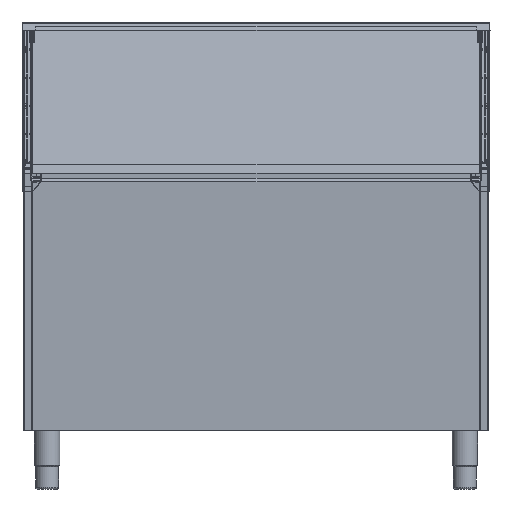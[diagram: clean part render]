
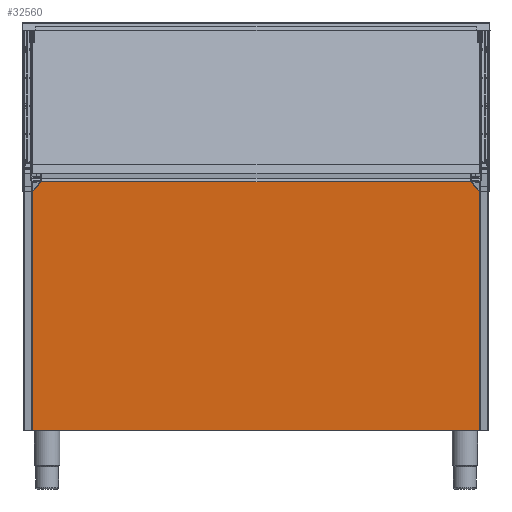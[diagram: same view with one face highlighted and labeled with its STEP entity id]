
A CAD part, front view. The second image highlights one B-rep face of the part: STEP entity #32560.
In plain terms, the highlighted planar face has unit normal (0, -0.999, -0.052) as drawn and (0, -1, 0) by its records, which use the part's own axes.
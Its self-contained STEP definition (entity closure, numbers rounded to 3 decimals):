
#11433=ORIENTED_EDGE('',*,*,#16589,.F.);
#11434=ORIENTED_EDGE('',*,*,#16584,.F.);
#11435=ORIENTED_EDGE('',*,*,#16412,.F.);
#11436=ORIENTED_EDGE('',*,*,#16577,.F.);
#11437=ORIENTED_EDGE('',*,*,#16565,.F.);
#11438=ORIENTED_EDGE('',*,*,#16583,.F.);
#11439=ORIENTED_EDGE('',*,*,#16590,.F.);
#11440=ORIENTED_EDGE('',*,*,#16551,.T.);
#16412=EDGE_CURVE('',#19544,#19545,#22365,.T.);
#16551=EDGE_CURVE('',#19664,#19663,#22467,.T.);
#16565=EDGE_CURVE('',#19677,#19678,#22476,.T.);
#16577=EDGE_CURVE('',#19678,#19544,#22486,.T.);
#16583=EDGE_CURVE('',#19683,#19677,#22490,.T.);
#16584=EDGE_CURVE('',#19545,#19684,#22491,.T.);
#16589=EDGE_CURVE('',#19684,#19663,#22494,.T.);
#16590=EDGE_CURVE('',#19664,#19683,#22495,.T.);
#19544=VERTEX_POINT('',#58583);
#19545=VERTEX_POINT('',#58585);
#19663=VERTEX_POINT('',#58863);
#19664=VERTEX_POINT('',#58865);
#19677=VERTEX_POINT('',#58892);
#19678=VERTEX_POINT('',#58894);
#19683=VERTEX_POINT('',#58925);
#19684=VERTEX_POINT('',#58929);
#22365=LINE('',#58584,#25270);
#22467=LINE('',#58864,#25372);
#22476=LINE('',#58893,#25381);
#22486=LINE('',#58915,#25391);
#22490=LINE('',#58926,#25395);
#22491=LINE('',#58928,#25396);
#22494=LINE('',#58936,#25399);
#22495=LINE('',#58937,#25400);
#25270=VECTOR('',#44273,1000.);
#25372=VECTOR('',#44493,1000.);
#25381=VECTOR('',#44514,1000.);
#25391=VECTOR('',#44542,1000.);
#25395=VECTOR('',#44554,1000.);
#25396=VECTOR('',#44557,1000.);
#25399=VECTOR('',#44566,1000.);
#25400=VECTOR('',#44567,1000.);
#27674=EDGE_LOOP('',(#11433,#11434,#11435,#11436,#11437,#11438,#11439,#11440));
#29836=FACE_BOUND('',#27674,.T.);
#30750=PLANE('',#35852);
#32560=ADVANCED_FACE('',(#29836),#30750,.T.);
#35852=AXIS2_PLACEMENT_3D('',#58935,#44564,#44565);
#44273=DIRECTION('',(0.,0.,-1.));
#44493=DIRECTION('',(1.,0.,0.));
#44514=DIRECTION('',(0.,0.,1.));
#44542=DIRECTION('',(1.,0.,0.));
#44554=DIRECTION('',(1.,0.,0.));
#44557=DIRECTION('',(1.,0.,0.));
#44564=DIRECTION('',(0.,-1.,0.));
#44565=DIRECTION('',(0.,0.,-1.));
#44566=DIRECTION('',(0.,0.,-1.));
#44567=DIRECTION('',(0.,0.,1.));
#58583=CARTESIAN_POINT('',(575.4,-32.906,-37.001));
#58584=CARTESIAN_POINT('',(575.4,-32.906,27.613));
#58585=CARTESIAN_POINT('',(575.4,-32.906,-38.999));
#58863=CARTESIAN_POINT('',(587.498,-32.906,-691.698));
#58864=CARTESIAN_POINT('',(-587.5,-32.906,-691.698));
#58865=CARTESIAN_POINT('',(-587.498,-32.906,-691.698));
#58892=CARTESIAN_POINT('',(-575.4,-32.906,-38.999));
#58893=CARTESIAN_POINT('',(-575.4,-32.906,-38.999));
#58894=CARTESIAN_POINT('',(-575.4,-32.906,-37.001));
#58915=CARTESIAN_POINT('',(-587.5,-32.906,-37.001));
#58925=CARTESIAN_POINT('',(-587.498,-32.906,-38.999));
#58926=CARTESIAN_POINT('',(-587.5,-32.906,-38.999));
#58928=CARTESIAN_POINT('',(575.4,-32.906,-38.999));
#58929=CARTESIAN_POINT('',(587.498,-32.906,-38.999));
#58935=CARTESIAN_POINT('',(-587.5,-32.906,-691.7));
#58936=CARTESIAN_POINT('',(587.498,-32.906,-38.999));
#58937=CARTESIAN_POINT('',(-587.498,-32.906,-691.698));
